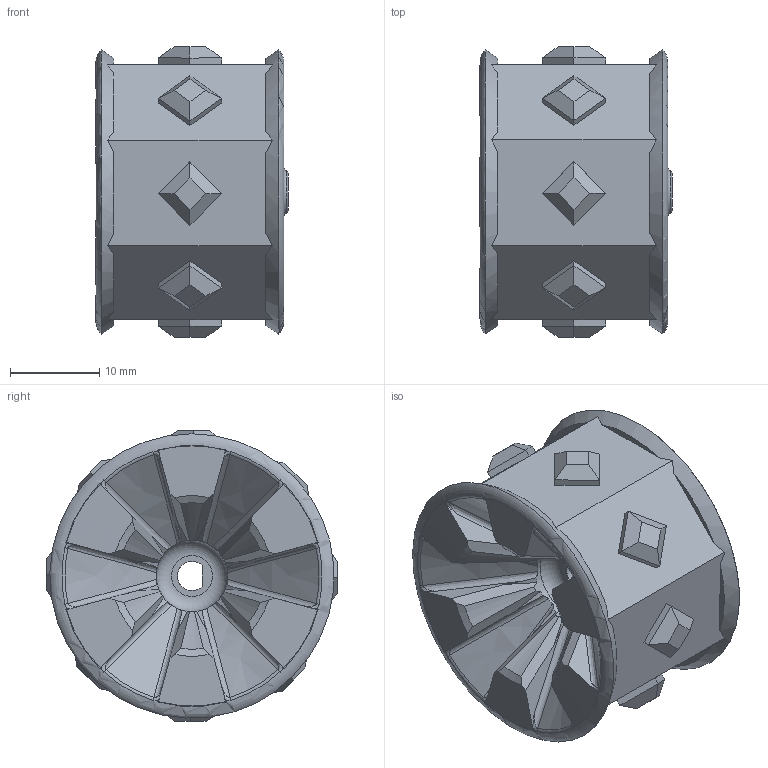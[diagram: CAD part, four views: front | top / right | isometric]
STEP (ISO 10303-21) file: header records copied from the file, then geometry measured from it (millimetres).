
FILE_DESCRIPTION(/* description */ ('Alibre Inc.'),/* implementation_level */ '2;1');
FILE_NAME(/* name */ 'export0',/* time_stamp */ '2018-08-03T14:55:54-04:00',/* author */ (''),/* organization */ (''),/* preprocessor_version */ 'ST-DEVELOPER v17',/* originating_system */ 'Alibre',/* authorisation */ '');
FILE_SCHEMA (('AUTOMOTIVE_DESIGN'));
Length unit declared in the file: millimetre
Bounding box: 21.54 x 32.52 x 32.52 mm (x, y, z)
Volume: 12800.6 mm3; surface area: 4350.3 mm2
Topology: 1 solids, 1 shells, 219 faces, 574 edges, 366 vertices
Faces by surface type: plane 124, cone 44, bspline 36, torus 12, cylinder 3
Full cylindrical faces by diameter (mm): 8 x1
Entity records: 13129 total; most frequent: CARTESIAN_POINT 8477, ORIENTED_EDGE 1124, DIRECTION 666, EDGE_CURVE 562, VERTEX_POINT 362, AXIS2_PLACEMENT_3D 270, EDGE_LOOP 238, FACE_BOUND 238
